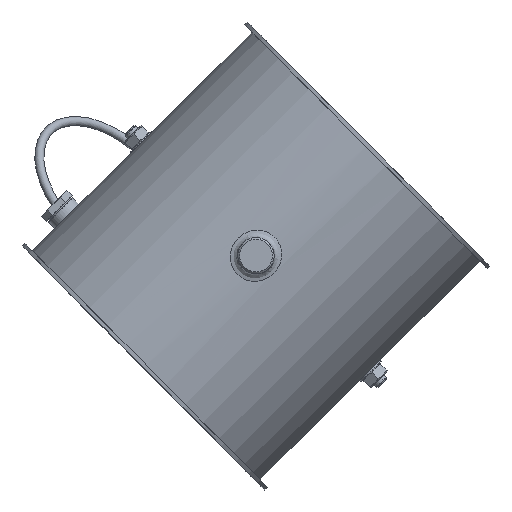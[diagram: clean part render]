
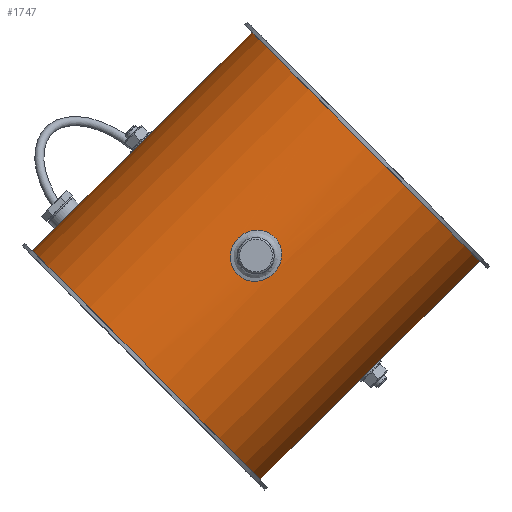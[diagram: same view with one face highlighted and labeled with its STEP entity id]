
A CAD part, top view. The second image highlights one B-rep face of the part: STEP entity #1747.
In plain terms, the highlighted cylindrical face has radius 89 mm (diameter 178 mm), a full revolution.
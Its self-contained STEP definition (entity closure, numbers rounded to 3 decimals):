
#1453=CARTESIAN_POINT('',(-87.727,15.0,87.5));
#1454=VERTEX_POINT('',#1453);
#1455=CARTESIAN_POINT('',(-87.727,15.0,87.5));
#1456=CARTESIAN_POINT('',(-87.727,15.0,88.444));
#1457=CARTESIAN_POINT('',(-87.742,14.91,89.419));
#1458=CARTESIAN_POINT('',(-87.806,14.529,91.358));
#1459=CARTESIAN_POINT('',(-87.854,14.239,92.322));
#1460=CARTESIAN_POINT('',(-88.035,13.09,95.093));
#1461=CARTESIAN_POINT('',(-88.206,11.936,96.777));
#1462=CARTESIAN_POINT('',(-88.525,9.277,99.436));
#1463=CARTESIAN_POINT('',(-88.695,7.593,100.59));
#1464=CARTESIAN_POINT('',(-88.874,4.822,101.739));
#1465=CARTESIAN_POINT('',(-88.922,3.858,102.029));
#1466=CARTESIAN_POINT('',(-88.985,1.919,102.41));
#1467=CARTESIAN_POINT('',(-89.0,0.944,102.5));
#1468=CARTESIAN_POINT('',(-89.0,-0.944,102.5));
#1469=CARTESIAN_POINT('',(-88.985,-1.919,102.41));
#1470=CARTESIAN_POINT('',(-88.922,-3.858,102.029));
#1471=CARTESIAN_POINT('',(-88.874,-4.822,101.739));
#1472=CARTESIAN_POINT('',(-88.695,-7.593,100.59));
#1473=CARTESIAN_POINT('',(-88.525,-9.277,99.436));
#1474=CARTESIAN_POINT('',(-88.206,-11.936,96.777));
#1475=CARTESIAN_POINT('',(-88.035,-13.09,95.093));
#1476=CARTESIAN_POINT('',(-87.854,-14.239,92.322));
#1477=CARTESIAN_POINT('',(-87.806,-14.529,91.358));
#1478=CARTESIAN_POINT('',(-87.742,-14.91,89.419));
#1479=CARTESIAN_POINT('',(-87.727,-15.0,88.444));
#1480=CARTESIAN_POINT('',(-87.727,-15.0,86.556));
#1481=CARTESIAN_POINT('',(-87.742,-14.91,85.581));
#1482=CARTESIAN_POINT('',(-87.806,-14.529,83.642));
#1483=CARTESIAN_POINT('',(-87.854,-14.239,82.678));
#1484=CARTESIAN_POINT('',(-88.035,-13.09,79.907));
#1485=CARTESIAN_POINT('',(-88.206,-11.936,78.223));
#1486=CARTESIAN_POINT('',(-88.525,-9.277,75.564));
#1487=CARTESIAN_POINT('',(-88.695,-7.593,74.41));
#1488=CARTESIAN_POINT('',(-88.874,-4.822,73.261));
#1489=CARTESIAN_POINT('',(-88.922,-3.858,72.971));
#1490=CARTESIAN_POINT('',(-88.985,-1.919,72.59));
#1491=CARTESIAN_POINT('',(-89.0,-0.944,72.5));
#1492=CARTESIAN_POINT('',(-89.0,0.944,72.5));
#1493=CARTESIAN_POINT('',(-88.985,1.919,72.59));
#1494=CARTESIAN_POINT('',(-88.922,3.858,72.971));
#1495=CARTESIAN_POINT('',(-88.874,4.822,73.261));
#1496=CARTESIAN_POINT('',(-88.695,7.593,74.41));
#1497=CARTESIAN_POINT('',(-88.525,9.277,75.564));
#1498=CARTESIAN_POINT('',(-88.206,11.936,78.223));
#1499=CARTESIAN_POINT('',(-88.035,13.09,79.907));
#1500=CARTESIAN_POINT('',(-87.854,14.239,82.678));
#1501=CARTESIAN_POINT('',(-87.806,14.529,83.642));
#1502=CARTESIAN_POINT('',(-87.742,14.91,85.581));
#1503=CARTESIAN_POINT('',(-87.727,15.0,86.556));
#1504=CARTESIAN_POINT('',(-87.727,15.0,87.5));
#1505=B_SPLINE_CURVE_WITH_KNOTS('',3,(#1455,#1456,#1457,#1458,#1459,#1460,#1461,#1462,#1463,#1464,#1465,#1466,#1467,#1468,#1469,#1470,#1471,#1472,#1473,#1474,#1475,#1476,#1477,#1478,#1479,#1480,#1481,#1482,#1483,#1484,#1485,#1486,#1487,#1488,#1489,#1490,#1491,#1492,#1493,#1494,#1495,#1496,#1497,#1498,#1499,#1500,#1501,#1502,#1503,#1504),.UNSPECIFIED.,.T.,.U.,(4,2,2,2,2,2,2,2,2,2,2,2,2,2,2,2,2,2,2,2,2,2,2,2,4),(0.0,0.283,0.566,1.132,1.699,1.982,2.265,2.548,2.831,3.397,3.963,4.246,4.53,4.813,5.096,5.662,6.228,6.511,6.794,7.077,7.361,7.927,8.493,8.776,9.059),.UNSPECIFIED.);
#1506=EDGE_CURVE('',#1454,#1454,#1505,.T.);
#1676=CARTESIAN_POINT('',(87.923,13.802,87.5));
#1677=VERTEX_POINT('',#1676);
#1687=CARTESIAN_POINT('',(87.923,13.802,87.5));
#1688=CARTESIAN_POINT('',(87.923,13.802,87.501));
#1689=CARTESIAN_POINT('',(87.923,13.802,87.502));
#1690=CARTESIAN_POINT('',(87.923,13.802,87.504));
#1691=CARTESIAN_POINT('',(87.923,13.801,89.664));
#1692=CARTESIAN_POINT('',(88.077,12.871,93.979));
#1693=CARTESIAN_POINT('',(88.599,8.912,99.209));
#1694=CARTESIAN_POINT('',(89.016,3.212,102.111));
#1695=CARTESIAN_POINT('',(89.016,-3.174,102.121));
#1696=CARTESIAN_POINT('',(88.604,-8.88,99.23));
#1697=CARTESIAN_POINT('',(88.017,-13.3,93.452));
#1698=CARTESIAN_POINT('',(87.845,-14.271,86.717));
#1699=CARTESIAN_POINT('',(88.173,-12.216,79.709));
#1700=CARTESIAN_POINT('',(88.67,-8.316,75.297));
#1701=CARTESIAN_POINT('',(89.016,-2.479,72.885));
#1702=CARTESIAN_POINT('',(89.017,3.174,72.88));
#1703=CARTESIAN_POINT('',(88.601,8.899,75.775));
#1704=CARTESIAN_POINT('',(88.167,12.196,80.124));
#1705=CARTESIAN_POINT('',(87.961,13.566,84.235));
#1706=CARTESIAN_POINT('',(87.923,13.802,86.421));
#1707=CARTESIAN_POINT('',(87.923,13.802,87.5));
#1708=B_SPLINE_CURVE_WITH_KNOTS('',3,(#1687,#1688,#1689,#1690,#1691,#1692,#1693,#1694,#1695,#1696,#1697,#1698,#1699,#1700,#1701,#1702,#1703,#1704,#1705,#1706,#1707),.UNSPECIFIED.,.T.,.U.,(4,3,1,1,1,1,1,1,1,1,1,1,1,1,1,1,4),(-6.033,-6.032,-5.602,-5.171,-4.74,-4.309,-3.878,-3.447,-2.873,-2.585,-2.011,-1.724,-1.293,-0.862,-0.431,-0.215,0.),.UNSPECIFIED.);
#1709=EDGE_CURVE('',#1677,#1677,#1708,.T.);
#1714=CARTESIAN_POINT('',(0.0,0.0,0.0));
#1715=DIRECTION('',(0.0,0.0,1.0));
#1716=DIRECTION('',(-1.0,0.0,0.0));
#1717=AXIS2_PLACEMENT_3D('',#1714,#1715,#1716);
#1718=CYLINDRICAL_SURFACE('',#1717,89.0);
#1719=CARTESIAN_POINT('',(89.0,0.,173.0));
#1720=VERTEX_POINT('',#1719);
#1721=CARTESIAN_POINT('',(0.0,0.0,173.0));
#1722=DIRECTION('',(0.0,0.0,-1.0));
#1723=DIRECTION('',(-1.0,0.0,0.0));
#1724=AXIS2_PLACEMENT_3D('',#1721,#1722,#1723);
#1725=CIRCLE('',#1724,89.0);
#1726=EDGE_CURVE('',#1720,#1720,#1725,.T.);
#1727=ORIENTED_EDGE('',*,*,#1726,.T.);
#1728=EDGE_LOOP('',(#1727));
#1729=FACE_OUTER_BOUND('',#1728,.T.);
#1730=ORIENTED_EDGE('',*,*,#1506,.T.);
#1731=EDGE_LOOP('',(#1730));
#1732=FACE_BOUND('',#1731,.T.);
#1733=CARTESIAN_POINT('',(-89.0,0.,2.0));
#1734=VERTEX_POINT('',#1733);
#1735=CARTESIAN_POINT('',(0.0,0.0,2.0));
#1736=DIRECTION('',(0.0,0.0,1.0));
#1737=DIRECTION('',(-1.0,0.0,0.0));
#1738=AXIS2_PLACEMENT_3D('',#1735,#1736,#1737);
#1739=CIRCLE('',#1738,89.0);
#1740=EDGE_CURVE('',#1734,#1734,#1739,.T.);
#1741=ORIENTED_EDGE('',*,*,#1740,.T.);
#1742=EDGE_LOOP('',(#1741));
#1743=FACE_BOUND('',#1742,.T.);
#1744=ORIENTED_EDGE('',*,*,#1709,.F.);
#1745=EDGE_LOOP('',(#1744));
#1746=FACE_BOUND('',#1745,.T.);
#1747=ADVANCED_FACE('',(#1729,#1732,#1743,#1746),#1718,.T.);
